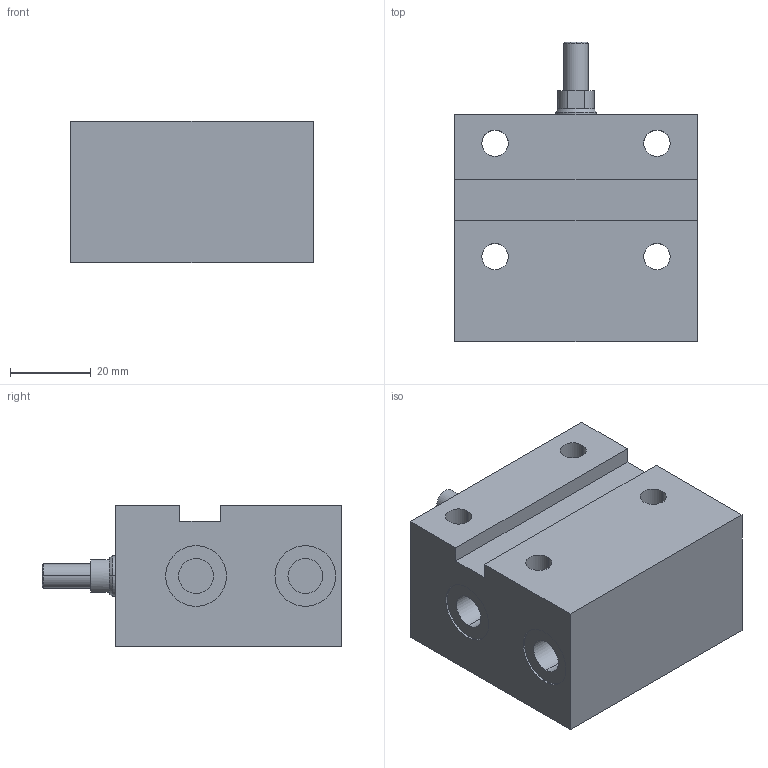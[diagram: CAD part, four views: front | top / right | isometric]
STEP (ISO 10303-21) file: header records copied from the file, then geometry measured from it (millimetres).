
FILE_DESCRIPTION (( 'STEP AP203' ), '1' );
FILE_NAME ('GERMA_Blockzylinder_601-016-016-A.STEP', '2015-07-16T12:23:15', ( '' ), ( '' ), 'SwSTEP 2.0', 'SolidWorks 2015', '' );
FILE_SCHEMA (( 'CONFIG_CONTROL_DESIGN' ));
Length unit declared in the file: millimetre
Products named in the file (3): GERMA_Blockzylinder_601-016-016-A; GH-600-016_GH-601-016-016; Kolben 60x-016_Kolben DU.16-Hub16-AG
Assembly tree (2 placements, depth 2):
  GERMA_Blockzylinder_601-016-016-A
    GH-600-016_GH-601-016-016
    Kolben 60x-016_Kolben DU.16-Hub16-AG
Bounding box: 60 x 74 x 35 mm (x, y, z)
Volume: 107498.9 mm3; surface area: 23297.5 mm2
Topology: 2 solids, 2 shells, 71 faces, 158 edges, 99 vertices
Faces by surface type: cylinder 33, plane 26, cone 12
Entity records: 2280 total; most frequent: DIRECTION 385, CARTESIAN_POINT 329, ORIENTED_EDGE 308, AXIS2_PLACEMENT_3D 155, EDGE_CURVE 154, VERTEX_POINT 99, EDGE_LOOP 91, CIRCLE 79
